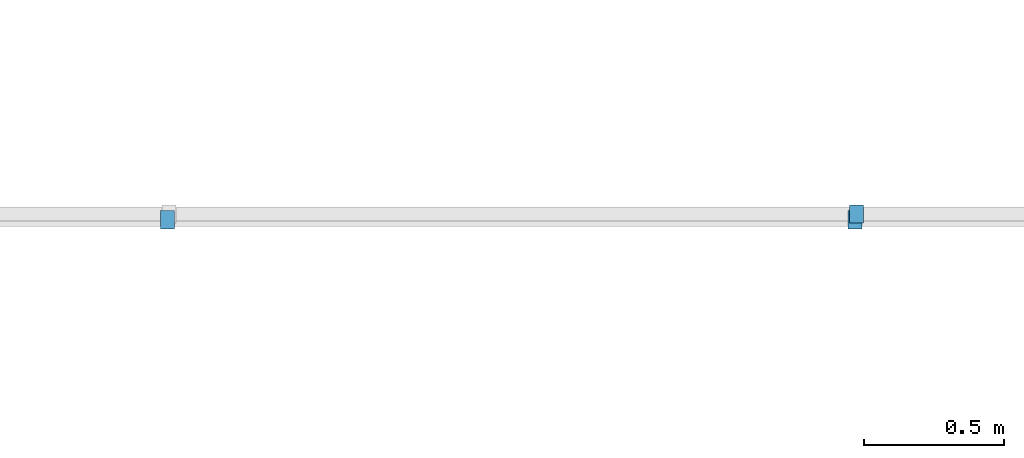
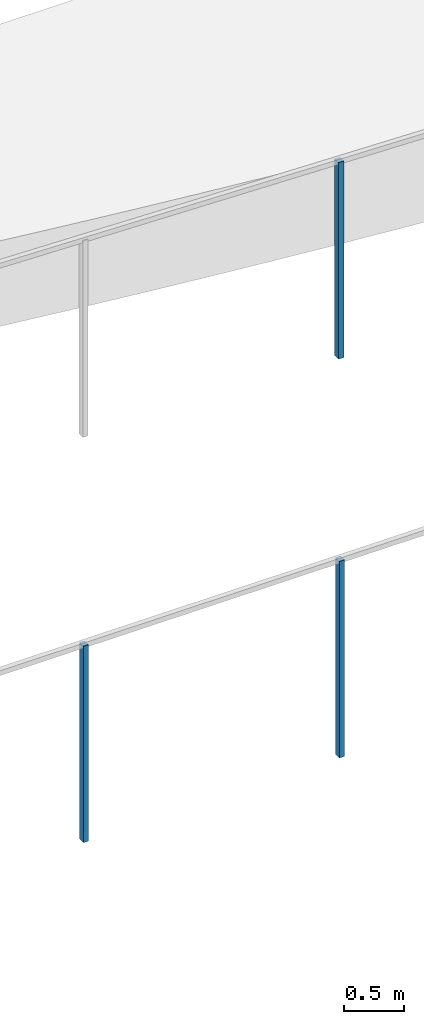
# One storey, part 51 of 91: 3 building element parts, 2 elements without a shape of their own.
"""IFC2X3 building model written with IfcOpenShell, lengths in metres."""

from ifc_helpers import new_model, entity, si_unit, converted_unit, derived_unit, money_unit, direction, frame, origin_with_axes, place, context, subcontext, project, spatial, faceted_brep, material, type_object, element, aggregate, save


model = new_model("IFC2X3")

# Units and contexts
model_context = context("Model", 3, precision=1e-05, world=origin_with_axes(), true_north=direction((0.0, 1.0)))
body_context = subcontext(model_context, "Body", "Model", "MODEL_VIEW")
ifc_project = project(units=[si_unit("LENGTHUNIT", "METRE"), si_unit("AREAUNIT", "SQUARE_METRE"), si_unit("VOLUMEUNIT", "CUBIC_METRE"), converted_unit("PLANEANGLEUNIT", "DEGREE", entity("IfcPlaneAngleMeasure", 0.0174532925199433), si_unit("PLANEANGLEUNIT", "RADIAN"), dimensions=[0, 0, 0, 0, 0, 0, 0]), money_unit("EUR"), converted_unit("TIMEUNIT", "Year", entity("IfcTimeMeasure", 31557600.0), si_unit("TIMEUNIT", "SECOND"), dimensions=[0, 0, 1, 0, 0, 0, 0]), si_unit("MASSUNIT", "GRAM", prefix="KILO"), si_unit("THERMODYNAMICTEMPERATUREUNIT", "DEGREE_CELSIUS"), si_unit("LUMINOUSINTENSITYUNIT", "LUMEN"), si_unit("ENERGYUNIT", "JOULE", prefix="MEGA"), derived_unit("THERMALCONDUCTANCEUNIT", [(si_unit("POWERUNIT", "WATT"), 1), (si_unit("LENGTHUNIT", "METRE"), -1), (si_unit("THERMODYNAMICTEMPERATUREUNIT", "KELVIN"), -1)]), derived_unit("SPECIFICHEATCAPACITYUNIT", [(si_unit("ENERGYUNIT", "JOULE"), 1), (si_unit("MASSUNIT", "GRAM", prefix="KILO"), -1), (si_unit("THERMODYNAMICTEMPERATUREUNIT", "KELVIN"), -1)]), derived_unit("MASSDENSITYUNIT", [(si_unit("MASSUNIT", "GRAM", prefix="KILO"), 1), (si_unit("VOLUMEUNIT", "CUBIC_METRE"), -1)])], contexts=[model_context])

# Site, building, storey
site_placement = place(None, origin_with_axes())
site = spatial("IfcSite", under=ifc_project, at=site_placement, Name="Site", CompositionType="ELEMENT")
building_placement = place(site_placement, origin_with_axes())
building = spatial("IfcBuilding", under=site, at=building_placement, Name="Bâtiment", CompositionType="ELEMENT")
storey_placement = place(building_placement, origin_with_axes())
storey = spatial("IfcBuildingStorey", under=building, at=storey_placement, Name="RDC", CompositionType="ELEMENT", Elevation=0.0)

# Proxy, building element part
building_element_proxy_type = type_object("IfcBuildingElementProxyType", Name="Type de garde-corps", PredefinedType="NOTDEFINED")
proxy_1_placement = place(storey_placement, frame((79.63337255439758, 3.614023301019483, -2.37161404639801), z_axis=(0.0, 0.0, 1.0), x_axis=(1.0, 0.0, 0.0)))
proxy_1 = element("IfcBuildingElementProxy", 1, at=proxy_1_placement, inside=storey, type_object=building_element_proxy_type, Name="RAMPE-004")
ifc_material = material(Name="Acier Galva")
building_element_part_1_placement = place(proxy_1_placement, origin_with_axes())
building_element_part_1 = element("IfcBuildingElementPart", 2, at=building_element_part_1_placement, material=ifc_material, Name="Acier Galva", context=body_context, shape_type="Brep", body=[
    faceted_brep([(-50.11333922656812, -41.495928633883, 4.045068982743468), (-50.11333922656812, -41.42992863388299, 4.045068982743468), (-50.11333922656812, -41.42992863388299, 6.045068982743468), (-50.11333922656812, -41.495928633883, 6.045068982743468), (-50.16333922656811, -41.495928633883, 4.04638993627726), (-50.16333922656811, -41.42992863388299, 4.04638993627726), (-50.16333922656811, -41.42992863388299, 6.04638993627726), (-50.16333922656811, -41.495928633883, 6.04638993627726)], [[[0, 1, 2, 3]], [[0, 4, 5, 1]], [[1, 5, 6, 2]], [[3, 2, 6, 7]], [[4, 0, 3, 7]], [[5, 4, 7, 6]]]),
])
aggregate(proxy_1, [building_element_part_1])

# Proxy, building element parts
proxy_2_placement = place(storey_placement, frame((54.13280691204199, -37.84890533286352, -2.37161404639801), z_axis=(0.0, 0.0, 1.0), x_axis=(1.0, 0.0, 0.0)))
proxy_2 = element("IfcBuildingElementProxy", 3, at=proxy_2_placement, inside=storey, type_object=building_element_proxy_type, Name="RAMPE-004")
building_element_part_2_placement = place(proxy_2_placement, origin_with_axes())
building_element_part_2 = element("IfcBuildingElementPart", 4, at=building_element_part_2_placement, material=ifc_material, Name="Acier Galva", context=body_context, shape_type="Brep", body=[
    faceted_brep([(-24.66740252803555, 0.01299999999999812, 0.0), (-24.66740252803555, -0.05300000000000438, 0.0), (-24.66740252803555, -0.05300000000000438, 2.0), (-24.66740252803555, 0.01299999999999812, 2.0), (-24.61740252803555, 0.01299999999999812, 0.0), (-24.61740252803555, -0.05300000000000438, 0.0), (-24.61740252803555, -0.05300000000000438, 2.0), (-24.61740252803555, 0.01299999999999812, 2.0)], [[[0, 1, 2, 3]], [[0, 4, 5, 1]], [[1, 5, 6, 2]], [[3, 2, 6, 7]], [[4, 0, 3, 7]], [[5, 4, 7, 6]]]),
])
building_element_part_3_placement = place(proxy_2_placement, origin_with_axes())
building_element_part_3 = element("IfcBuildingElementPart", 5, at=building_element_part_3_placement, material=ifc_material, Name="Acier Galva", context=body_context, shape_type="Brep", body=[
    faceted_brep([(-27.1316427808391, 0.01299999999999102, 0.0), (-27.1316427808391, -0.05300000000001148, 0.0), (-27.1316427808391, -0.05300000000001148, 2.0), (-27.1316427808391, 0.01299999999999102, 2.0), (-27.0816427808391, 0.01299999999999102, 0.0), (-27.0816427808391, -0.05300000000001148, 0.0), (-27.0816427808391, -0.05300000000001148, 2.0), (-27.0816427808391, 0.01299999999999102, 2.0)], [[[0, 1, 2, 3]], [[0, 4, 5, 1]], [[1, 5, 6, 2]], [[3, 2, 6, 7]], [[4, 0, 3, 7]], [[5, 4, 7, 6]]]),
])
aggregate(proxy_2, [building_element_part_2, building_element_part_3])

save(model, "model.ifc")
